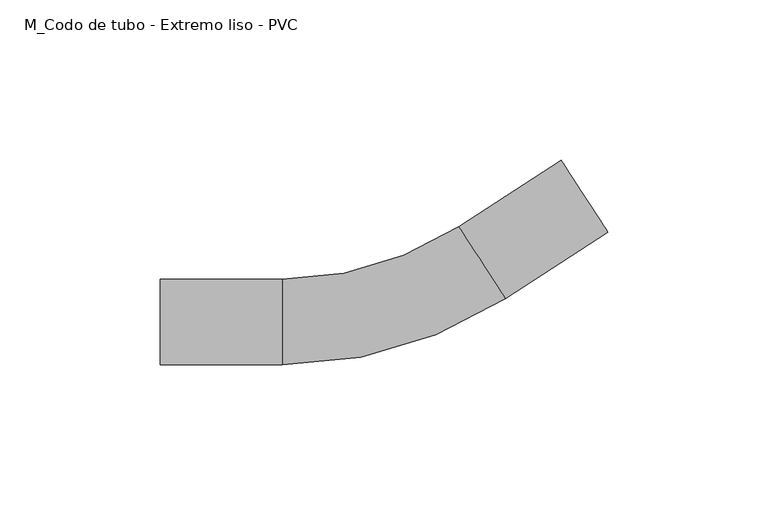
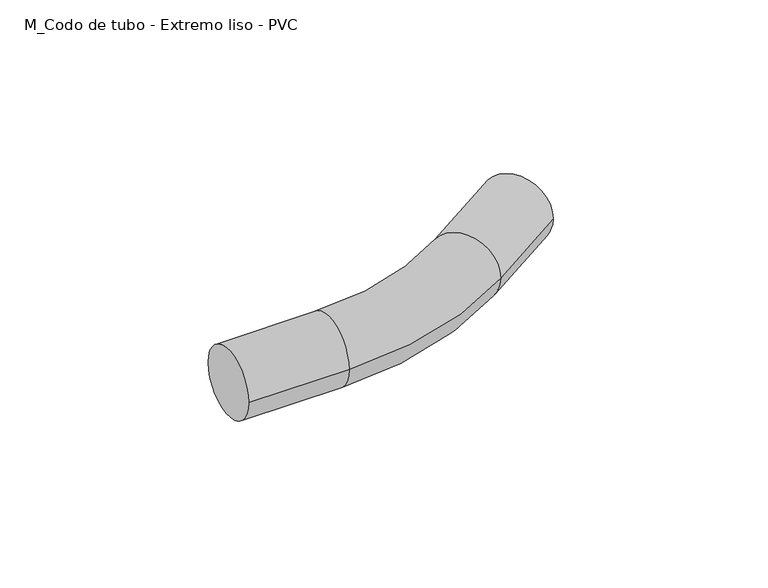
"""IFC4 building model written with IfcOpenShell, lengths in millimetres: cable carrier fitting geometry, M_Codo de tubo - Extremo liso - PVC : CODO ILUMINACION."""

from ifc_helpers import new_model, si_unit, point, frame, origin, place, context, project, spatial, circle_curve, ellipse_curve, trimmed, source, transform, mapped, element, save
from ifc_brep_helpers import plane_surface, cylinder_surface, revolved_surface, advanced_brep


def m_codo_de_tubo_extremo_liso_pvc_e85de414(model_context):
    return source(origin(), model_context, "Body", "AdvancedBrep", [
        advanced_brep(
        [(-71.9572025, -13.335, 0.0), (-71.9572025, 13.335, 0.0), (-33.8572025, -13.335, 0.0), (-33.8572025, 13.335, 0.0), (21.1322777, 29.6236261, 0.0), (35.6578008, 7.2562821, 0.0), (67.6111494, 28.0070293, 0.0), (53.0856263, 50.3743733, 0.0)],
        [
            (0, 1, circle_curve(frame((-71.9572025, 0.0, 0.0), z_axis=(-1.0, 0.0, 0.0), x_axis=(0.0, 1.0, 0.0)), 13.335)),
            (1, 0, circle_curve(frame((-71.9572025, 0.0, 0.0), z_axis=(-1.0, 0.0, 0.0), x_axis=(0.0, 1.0, 0.0)), 13.335)),
            (0, 2),
            (2, 3, circle_curve(frame((-33.8572025, 0.0, 0.0), z_axis=(-1.0, 0.0, 0.0), x_axis=(0.0, 1.0, 0.0)), 13.335)),
            (3, 1),
            (3, 2, circle_curve(frame((-33.8572025, 0.0, 0.0), z_axis=(-1.0, 0.0, 0.0), x_axis=(0.0, 1.0, 0.0)), 13.335)),
            (4, 3, circle_curve(frame((-33.8572025, 114.3, 0.0), z_axis=(0.0, 0.0, -1.0), x_axis=(0.0, -1.0, 0.0)), 100.965)),
            (2, 5, circle_curve(frame((-33.8572025, 114.3, 0.0), z_axis=(0.0, 0.0, 1.0), x_axis=(0.0, -1.0, 0.0)), 127.635)),
            (5, 4, circle_curve(frame((28.3950392, 18.4399541, 0.0), z_axis=(-0.8386705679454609, -0.5446390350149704, 0.0), x_axis=(-0.5446390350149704, 0.8386705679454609, 0.0)), 13.335)),
            (4, 5, circle_curve(frame((28.3950392, 18.4399541, 0.0), z_axis=(-0.838670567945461, -0.5446390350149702, 0.0), x_axis=(-0.5446390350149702, 0.838670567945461, 0.0)), 13.335)),
            (6, 7, circle_curve(frame((60.3483879, 39.1907013, 0.0), z_axis=(0.838670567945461, 0.5446390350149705, 0.0), x_axis=(-0.5446390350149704, 0.8386705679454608, 0.0)), 13.335)),
            (7, 6, circle_curve(frame((60.3483879, 39.1907013, 0.0), z_axis=(0.838670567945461, 0.5446390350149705, 0.0), x_axis=(-0.5446390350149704, 0.8386705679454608, 0.0)), 13.335)),
            (5, 6),
            (7, 4),
        ],
        [
            plane_surface(frame((-71.9572025, 0.0, 0.0), z_axis=(-1.0, 0.0, 0.0), x_axis=(0.0, 0.0, 1.0))),
            cylinder_surface(frame((-71.9572025, 0.0, 0.0), z_axis=(-1.0, 0.0, 0.0), x_axis=(0.0, 1.0, 0.0)), 13.335),
            revolved_surface(trimmed(ellipse_curve(frame((-33.8572025, 0.0, 0.0), z_axis=(-1.0, 0.0, 0.0), x_axis=(0.0, 1.0, 0.0)), 13.335, 13.335), [point((-33.8572025, -13.335, 0.0))], [point((-33.8572025, 13.335, 0.0))], True, "CARTESIAN"), (-33.8572025, 114.3, 0.0), (0.0, 0.0, 1.0)),
            revolved_surface(trimmed(ellipse_curve(frame((-33.8572025, 0.0, 0.0), z_axis=(-1.0, 0.0, 0.0), x_axis=(0.0, 1.0, 0.0)), 13.335, 13.335), [point((-33.8572025, 13.335, 0.0))], [point((-33.8572025, -13.335, 0.0))], True, "CARTESIAN"), (-33.8572025, 114.3, 0.0), (0.0, 0.0, 1.0)),
            plane_surface(frame((60.3483879, 39.1907013, 0.0), z_axis=(0.8386705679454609, 0.5446390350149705, 0.0), x_axis=(0.0, 0.0, 1.0))),
            cylinder_surface(frame((28.3950392, 18.4399541, 0.0), z_axis=(-0.8386705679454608, -0.5446390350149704, 0.0), x_axis=(-0.5446390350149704, 0.8386705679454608, 0.0)), 13.335),
        ],
        [
            (0, [[1, 2]]),
            (1, [[-1, 3, 4, 5]]),
            (1, [[-2, -5, 6, -3]]),
            (2, [[7, -4, 8, 9]]),
            (3, [[-8, -6, -7, 10]]),
            (4, [[11, 12]]),
            (5, [[-9, 13, -12, 14]]),
            (5, [[-10, -14, -11, -13]]),
        ],
    ),
    ])


if __name__ == "__main__":
    model = new_model("IFC4")
    model_context = context("Model", 3, world=origin())
    ifc_project = project(units=[si_unit("LENGTHUNIT", "METRE", prefix="MILLI")], contexts=[model_context])
    site = spatial("IfcSite", under=ifc_project)
    building = spatial("IfcBuilding", under=site)
    placement = place(None, origin())
    m_codo_de_tubo_extremo_liso_pvc_shape = m_codo_de_tubo_extremo_liso_pvc_e85de414(model_context)
    element("IfcCableCarrierFitting", 1, ObjectType="M_Codo de tubo - Extremo liso - PVC : CODO ILUMINACION", at=placement, inside=building, context=model_context, shape_type="MappedRepresentation", body=[
        mapped(m_codo_de_tubo_extremo_liso_pvc_shape, transform((0.0, 0.0, 0.0), x_axis=(1.0, 0.0, 0.0), y_axis=(0.0, 1.0, 0.0), z_axis=(0.0, 0.0, 1.0))),
    ])
    save(model, "model.ifc")
